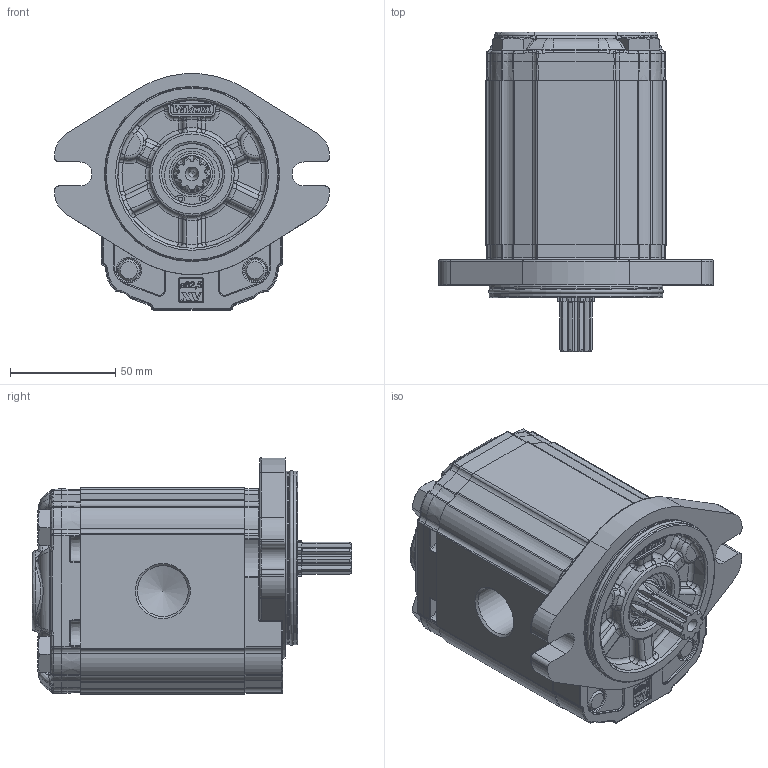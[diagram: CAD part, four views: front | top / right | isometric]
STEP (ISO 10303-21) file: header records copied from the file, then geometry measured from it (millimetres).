
FILE_DESCRIPTION(/* description */ ('Unknown'),/* implementation_level */ '2;1');
FILE_NAME(/* name */ 'X2P5552ICBA',/* time_stamp */ '2020-09-21T11:53:34+02:00',/* author */ ('Unknown'),/* organization */ ('Unknown'),/* preprocessor_version */ 'ST-DEVELOPER v16.7',/* originating_system */ 'DEX',/* authorisation */ $);
FILE_SCHEMA (('AUTOMOTIVE_DESIGN { 1 0 10303 214 3 1 1 }','AUTOMOTIVE_DESIGN {1 0 10303 214 3 1 1}'));
Products named in the file (5): X2P5552ICBA; X2P52; 2I; X2CBH78; XP219-A
Assembly tree (4 placements, depth 2):
  X2P5552ICBA
    X2P52
    2I
    X2CBH78
    XP219-A
Bounding box: 130.38 x 151.7 x 112.3 mm (x, y, z)
Volume: 908927.4 mm3; surface area: 113090 mm2
Topology: 4 solids, 5 shells, 2195 faces, 5407 edges, 3280 vertices
Faces by surface type: cylinder 649, plane 589, bspline 570, torus 246, cone 103, sphere 38
Full cylindrical faces by diameter (mm): 2 x2, 10 x4, 10.5 x4, 11 x2, 16 x4, 17.42 x1, 17.48 x2, 18.724 x1, 19 x1, 20.595 x1, 21.741 x1, 24.117 x1, 25.834 x1, 28.56 x1, 28.57 x1, 28.8 x1, 30.4 x1, 79.6 x2, 82.5 x2
Entity records: 100888 total; most frequent: CARTESIAN_POINT 39076, ORIENTED_EDGE 10468, DIRECTION 8739, EDGE_CURVE 5234, AXIS2_PLACEMENT_3D 3323, VERTEX_POINT 3228, FACE_BOUND 2376, EDGE_LOOP 2372
